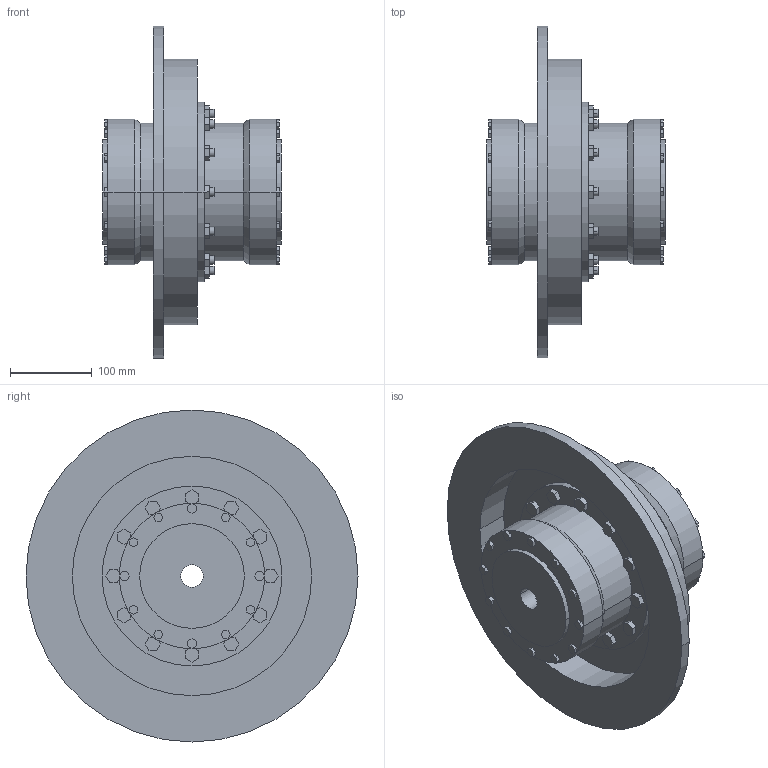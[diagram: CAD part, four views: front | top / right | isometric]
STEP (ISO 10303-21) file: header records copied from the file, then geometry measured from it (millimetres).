
FILE_DESCRIPTION((''),'2;1');
FILE_NAME('A19101100-0_ASM','2018-11-08T',('AB_Roschiwal'),('RENK AG'),'PRO/ENGINEER BY PARAMETRIC TECHNOLOGY CORPORATION, 2015440','PRO/ENGINEER BY PARAMETRIC TECHNOLOGY CORPORATION, 2015440','');
FILE_SCHEMA(('CONFIG_CONTROL_DESIGN'));
Length unit declared in the file: millimetre
Products named in the file (4): SBKD80_GEHAEUSE; SBKD80_NABE; SBKD80_BREMSSCHEIBE; A19101100-0_ASM
Assembly tree (4 placements, depth 2):
  A19101100-0_ASM
    SBKD80_GEHAEUSE
    SBKD80_NABE  x2
    SBKD80_BREMSSCHEIBE
Bounding box: 218 x 406 x 406 mm (x, y, z)
Volume: 6261024.5 mm3; surface area: 816832.9 mm2
Topology: 4 solids, 4 shells, 470 faces, 1156 edges, 768 vertices
Faces by surface type: plane 370, cylinder 96, cone 4
Entity records: 13604 total; most frequent: CARTESIAN_POINT 2350, ORIENTED_EDGE 2264, DIRECTION 2240, EDGE_CURVE 1132, VECTOR 956, LINE 956, VERTEX_POINT 752, AXIS2_PLACEMENT_3D 642
